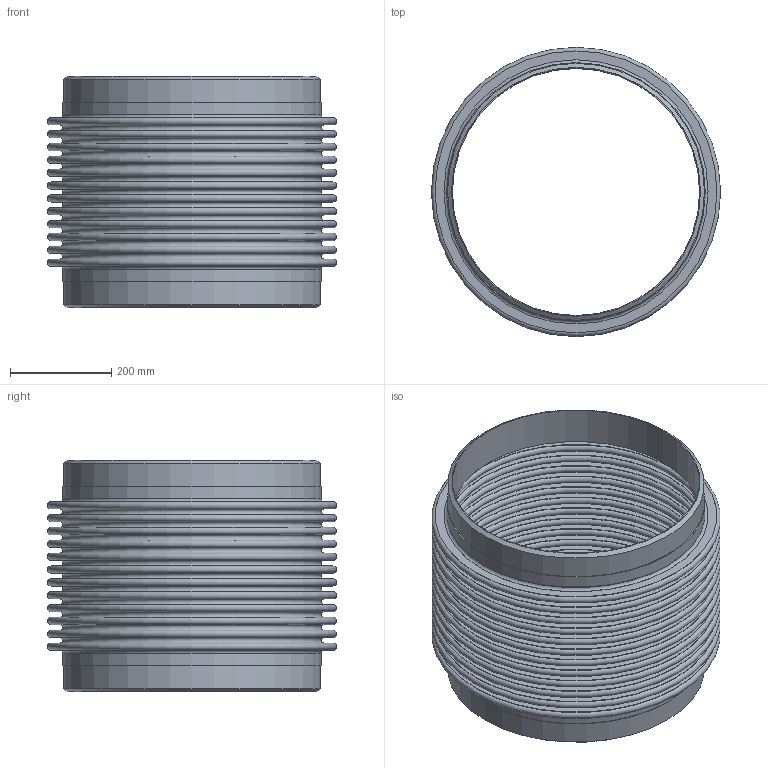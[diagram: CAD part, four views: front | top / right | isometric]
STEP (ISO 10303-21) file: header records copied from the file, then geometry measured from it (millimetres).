
FILE_DESCRIPTION(/* description */ ('EXPANSION JOINT,SINGLE, WELD ENDS,4 INCH NOMINAL'),/* implementation_level */ '2;1');
FILE_NAME(/* name */ 'ASSEMBLY US-20-12-150L.stp',/* time_stamp */ '2026-07-30T08:04:25-05:00',/* author */ ('jorgef'),/* organization */ (''),/* preprocessor_version */ 'ST-DEVELOPER v20.1',/* originating_system */ 'Autodesk Inventor 2026',/* authorisation */ '');
FILE_SCHEMA (('AUTOMOTIVE_DESIGN { 1 0 10303 214 3 1 1 }'));
Length unit declared in the file: inch
Products named in the file (3): ASSEMBLY  US-20-12-150L; STOCK BELLOW - US-20-12-150L; PIPE- US-20-12-150L
Assembly tree (3 placements, depth 2):
  ASSEMBLY  US-20-12-150L
    STOCK BELLOW - US-20-12-150L
    PIPE- US-20-12-150L  x2
Bounding box: 571.5 x 571.5 x 457.2 mm (x, y, z)
Volume: 4645048.3 mm3; surface area: 3751497.3 mm2
Topology: 5 solids, 5 shells, 118 faces, 180 edges, 121 vertices
Faces by surface type: plane 58, torus 50, cylinder 8, cone 2
Full cylindrical faces by diameter (mm): 488.95 x2, 508 x4, 511.048 x2
Entity records: 2769 total; most frequent: DIRECTION 573, CARTESIAN_POINT 405, ORIENTED_EDGE 342, AXIS2_PLACEMENT_3D 283, EDGE_CURVE 171, EDGE_LOOP 169, CIRCLE 164, VERTEX_POINT 114
